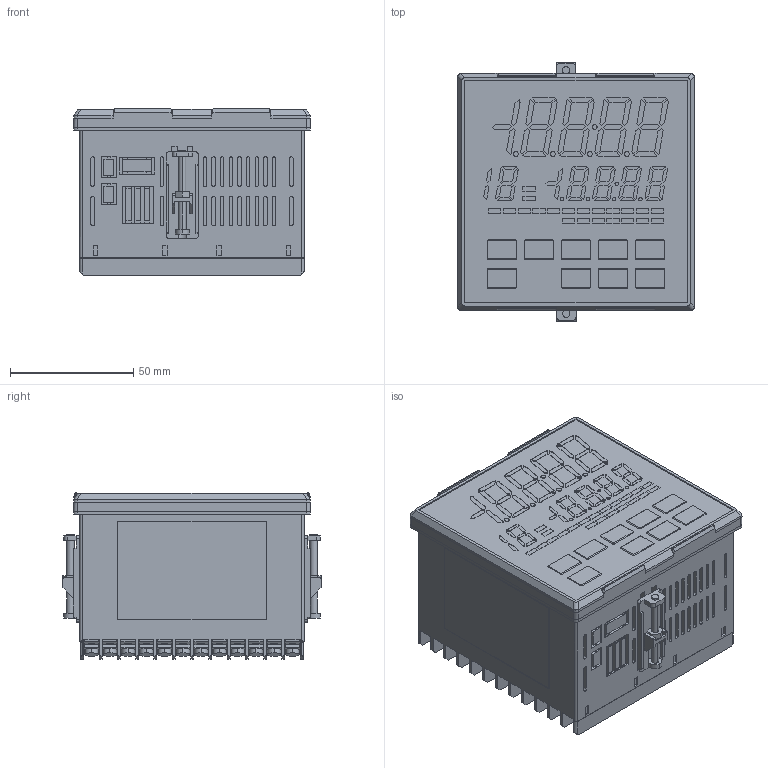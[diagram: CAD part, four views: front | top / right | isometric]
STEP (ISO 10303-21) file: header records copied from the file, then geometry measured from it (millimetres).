
FILE_DESCRIPTION (( 'STEP AP203' ), '1' );
FILE_NAME ('AD_PCB1_170526.STEP', '2018-02-27T02:40:20', ( 'kawahara' ), ( 'Hewlett-Packard Company' ), 'SwSTEP 2.0', 'SolidWorks 2017', '' );
FILE_SCHEMA (( 'CONFIG_CONTROL_DESIGN' ));
Length unit declared in the file: millimetre
Products named in the file (6): PCB1_170526; 僈僗働僢僩A_BCD2_141101; 取付具_BCD2_141029; 取付ネジ_BCD2_141029; AD_取付具_BCD2_141029; AD_PCB1_170526
Assembly tree (6 placements, depth 3):
  AD_PCB1_170526
    PCB1_170526
    僈僗働僢僩A_BCD2_141101
    AD_取付具_BCD2_141029  x2
      取付具_BCD2_141029
      取付ネジ_BCD2_141029
Bounding box: 96 x 104.95 x 67.5 mm (x, y, z)
Volume: 508762.9 mm3; surface area: 75367.4 mm2
Topology: 6 solids, 6 shells, 2390 faces, 6211 edges, 4134 vertices
Faces by surface type: plane 1788, cylinder 566, cone 36
Entity records: 70526 total; most frequent: CARTESIAN_POINT 12420, ORIENTED_EDGE 11936, DIRECTION 11638, EDGE_CURVE 5968, LINE 4806, VECTOR 4806, VERTEX_POINT 3974, AXIS2_PLACEMENT_3D 3416
